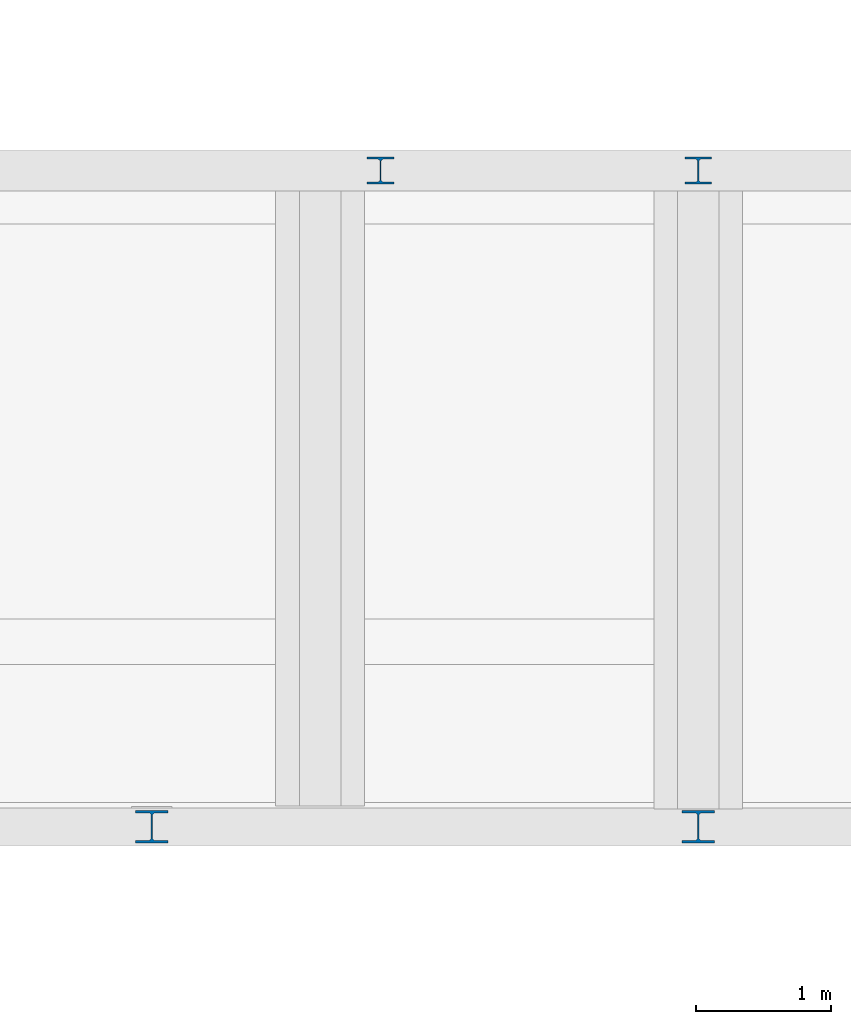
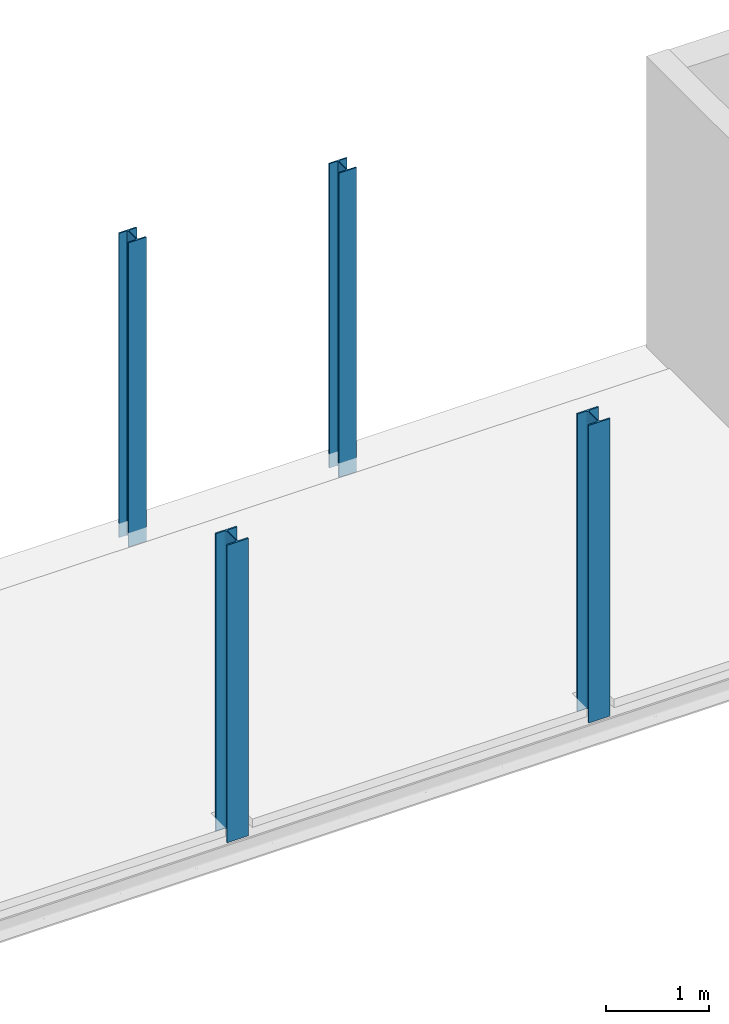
# One storey, part 7 of 38: 4 columns.
"""IFC2X3 building model written with IfcOpenShell, lengths in millimetres."""

from ifc_helpers import new_model, entity, si_unit, converted_unit, derived_unit, direction, frame, frame_2d, origin, place, context, subcontext, project, spatial, polyline, circle_curve, parameter, trimmed, segment, composite_curve, outline, extrude, source, transform, mapped, material, type_object, type_shapes, element, save


model = new_model("IFC2X3")

# Units and contexts
model_context = context("Model", 3, precision=0.01, world=origin(), true_north=direction((6.12303176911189e-17, 1.0)))
body_context = subcontext(model_context, "Body", "Model", "MODEL_VIEW")
ifc_project = project(units=[si_unit("LENGTHUNIT", "METRE", prefix="MILLI"), si_unit("AREAUNIT", "SQUARE_METRE", prefix="MILLI"), si_unit("VOLUMEUNIT", "CUBIC_METRE"), converted_unit("PLANEANGLEUNIT", "DEGREE", entity("IfcRatioMeasure", 0.0174532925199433), si_unit("PLANEANGLEUNIT", "RADIAN"), dimensions=[0, 0, 0, 0, 0, 0, 0]), si_unit("MASSUNIT", "GRAM", prefix="KILO"), derived_unit("MASSDENSITYUNIT", [(si_unit("MASSUNIT", "GRAM", prefix="KILO"), 1), (si_unit("LENGTHUNIT", "METRE"), -3)]), derived_unit("MOMENTOFINERTIAUNIT", [(si_unit("LENGTHUNIT", "METRE"), 4)]), si_unit("TIMEUNIT", "SECOND"), si_unit("FREQUENCYUNIT", "HERTZ"), si_unit("THERMODYNAMICTEMPERATUREUNIT", "DEGREE_CELSIUS"), derived_unit("THERMALTRANSMITTANCEUNIT", [(si_unit("MASSUNIT", "GRAM", prefix="KILO"), 1), (si_unit("THERMODYNAMICTEMPERATUREUNIT", "KELVIN"), -1), (si_unit("TIMEUNIT", "SECOND"), -3)]), derived_unit("VOLUMETRICFLOWRATEUNIT", [(si_unit("LENGTHUNIT", "METRE"), 3), (si_unit("TIMEUNIT", "SECOND"), -1)]), si_unit("ELECTRICCURRENTUNIT", "AMPERE"), si_unit("ELECTRICVOLTAGEUNIT", "VOLT"), si_unit("POWERUNIT", "WATT"), si_unit("FORCEUNIT", "NEWTON", prefix="KILO"), si_unit("ILLUMINANCEUNIT", "LUX"), si_unit("LUMINOUSFLUXUNIT", "LUMEN"), si_unit("LUMINOUSINTENSITYUNIT", "CANDELA"), derived_unit("USERDEFINED", [(si_unit("MASSUNIT", "GRAM", prefix="KILO"), -1), (si_unit("LENGTHUNIT", "METRE"), -2), (si_unit("TIMEUNIT", "SECOND"), 3), (si_unit("LUMINOUSFLUXUNIT", "LUMEN"), 1)]), derived_unit("LINEARVELOCITYUNIT", [(si_unit("LENGTHUNIT", "METRE"), 1), (si_unit("TIMEUNIT", "SECOND"), -1)]), si_unit("PRESSUREUNIT", "PASCAL"), derived_unit("USERDEFINED", [(si_unit("LENGTHUNIT", "METRE"), -2), (si_unit("MASSUNIT", "GRAM", prefix="KILO"), 1), (si_unit("TIMEUNIT", "SECOND"), -2)]), derived_unit("LINEARFORCEUNIT", [(si_unit("MASSUNIT", "GRAM", prefix="KILO"), 1), (si_unit("LENGTHUNIT", "METRE"), 1), (si_unit("TIMEUNIT", "SECOND"), -2), (si_unit("LENGTHUNIT", "METRE"), -1)]), derived_unit("PLANARFORCEUNIT", [(si_unit("MASSUNIT", "GRAM", prefix="KILO"), 1), (si_unit("LENGTHUNIT", "METRE"), 1), (si_unit("TIMEUNIT", "SECOND"), -2), (si_unit("LENGTHUNIT", "METRE"), -2)])], contexts=[model_context])

# Site, building, storey
site_placement = place(None, origin())
site = spatial("IfcSite", under=ifc_project, at=site_placement, Name="Theater aan de Parade", CompositionType="ELEMENT")
building_placement = place(site_placement, origin())
building = spatial("IfcBuilding", under=site, at=building_placement, Name="Theater aan de Parade", CompositionType="ELEMENT")
storey_placement = place(building_placement, frame((0.0, 0.0, 12480.0)))
storey = spatial("IfcBuildingStorey", under=building, at=storey_placement, Name="03 derde verdieping", CompositionType="ELEMENT", Elevation=12480.0)

# Columns
ifc_material = material(Name="00_PBT_MAT_staal_S355")
column_type_1 = type_object("IfcColumnType", Name="28_PBT_SC_staal_H-profiel:S355_HE200B", PredefinedType="COLUMN", material=ifc_material)
shared_shape_1 = source(origin(), body_context, "Body", "SweptSolid", [
    extrude(outline(composite_curve([segment(polyline([(85.0, -100.0), (100.0, -100.0)]), True, "CONTINUOUS"), segment(polyline([(100.0, -100.0), (100.0, 100.0)]), True, "CONTINUOUS"), segment(polyline([(100.0, 100.0), (85.0, 100.0)]), True, "CONTINUOUS"), segment(polyline([(85.0, 100.0), (85.0, 22.5)]), True, "CONTINUOUS"), segment(trimmed(circle_curve(frame_2d((67.0, 22.5), x_axis=(1.0, 0.0)), 18.0), [parameter(270.0)], [parameter(0.0)], True, "PARAMETER"), False, "CONTINUOUS"), segment(polyline([(67.0, 4.50000000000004), (-67.0, 4.5)]), True, "CONTINUOUS"), segment(trimmed(circle_curve(frame_2d((-67.0, 22.5), x_axis=(0.0, -1.0)), 18.0), [parameter(270.0)], [parameter(0.0)], True, "PARAMETER"), False, "CONTINUOUS"), segment(polyline([(-85.0, 22.5), (-85.0, 100.0)]), True, "CONTINUOUS"), segment(polyline([(-85.0, 100.0), (-100.0, 100.0)]), True, "CONTINUOUS"), segment(polyline([(-100.0, 100.0), (-100.0, -100.0)]), True, "CONTINUOUS"), segment(polyline([(-100.0, -100.0), (-85.0, -100.0)]), True, "CONTINUOUS"), segment(polyline([(-85.0, -100.0), (-85.0, -22.5)]), True, "CONTINUOUS"), segment(trimmed(circle_curve(frame_2d((-67.0, -22.5), x_axis=(-1.0, 0.0)), 18.0), [parameter(270.0)], [parameter(0.0)], True, "PARAMETER"), False, "CONTINUOUS"), segment(polyline([(-67.0, -4.5), (67.0, -4.49999999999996)]), True, "CONTINUOUS"), segment(trimmed(circle_curve(frame_2d((67.0, -22.5), x_axis=(0.0, 1.0)), 18.0), [parameter(270.0)], [parameter(0.0)], True, "PARAMETER"), False, "CONTINUOUS"), segment(polyline([(85.0, -22.5), (85.0, -100.0)]), True, "CONTINUOUS")], self_intersect=False)), frame((0.0, 0.0, 12420.0), z_axis=(0.0, 0.0, 1.0), x_axis=(0.0, -1.0, 0.0)), (0.0, 0.0, 1.0), 3615.0),
])
type_shapes(column_type_1, [shared_shape_1])
for number, where, z_axis, x_axis in (
    (1, (76411.8589693, 19700.0, -12480.0), (0.0, 0.0, 1.0), (-1.0, 0.0, 0.0)),
    (2, (78773.8589693, 19700.0, -12480.0), (0.0, 0.0, 1.0), (-1.0, 0.0, 0.0)),
):
    element("IfcColumn", number, at=place(storey_placement, frame(where, z_axis=z_axis, x_axis=x_axis)), inside=storey, type_object=column_type_1, material=ifc_material, Name="28_PBT_SC_staal_H-profiel:S355_HE200B", ObjectType="28_PBT_SC_staal_H-profiel:S355_HE200B", context=body_context, shape_type="MappedRepresentation", body=[
        mapped(shared_shape_1, transform((0.0, 0.0, 0.0), scale=1.0)),
    ])
column_type_2 = type_object("IfcColumnType", Name="28_PBT_SC_staal_H-profiel:S355_HE240B", PredefinedType="COLUMN", material=ifc_material)
shared_shape_2 = source(origin(), body_context, "Body", "SweptSolid", [
    extrude(outline(composite_curve([segment(polyline([(103.0, -120.0), (120.0, -120.0)]), True, "CONTINUOUS"), segment(polyline([(120.0, -120.0), (120.0, 120.0)]), True, "CONTINUOUS"), segment(polyline([(120.0, 120.0), (103.0, 120.0)]), True, "CONTINUOUS"), segment(polyline([(103.0, 120.0), (103.0, 26.0)]), True, "CONTINUOUS"), segment(trimmed(circle_curve(frame_2d((82.0, 26.0), x_axis=(1.0, 0.0)), 21.0), [parameter(269.999999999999)], [parameter(0.0)], True, "PARAMETER"), False, "CONTINUOUS"), segment(polyline([(82.0, 5.0), (-82.0, 5.0)]), True, "CONTINUOUS"), segment(trimmed(circle_curve(frame_2d((-82.0, 26.0), x_axis=(0.0, -1.0)), 21.0), [parameter(270.0)], [parameter(0.0)], True, "PARAMETER"), False, "CONTINUOUS"), segment(polyline([(-103.0, 26.0), (-103.0, 120.0)]), True, "CONTINUOUS"), segment(polyline([(-103.0, 120.0), (-120.0, 120.0)]), True, "CONTINUOUS"), segment(polyline([(-120.0, 120.0), (-120.0, -120.0)]), True, "CONTINUOUS"), segment(polyline([(-120.0, -120.0), (-103.0, -120.0)]), True, "CONTINUOUS"), segment(polyline([(-103.0, -120.0), (-103.0, -26.0)]), True, "CONTINUOUS"), segment(trimmed(circle_curve(frame_2d((-82.0, -26.0), x_axis=(-1.0, 0.0)), 21.0), [parameter(270.0)], [parameter(0.0)], True, "PARAMETER"), False, "CONTINUOUS"), segment(polyline([(-82.0, -5.0), (82.0, -5.0)]), True, "CONTINUOUS"), segment(trimmed(circle_curve(frame_2d((82.0, -26.0), x_axis=(0.0, 1.0)), 21.0), [parameter(270.0)], [parameter(0.0)], True, "PARAMETER"), False, "CONTINUOUS"), segment(polyline([(103.0, -26.0), (103.0, -120.0)]), True, "CONTINUOUS")], self_intersect=False)), frame((0.0, 0.0, 12480.0), z_axis=(0.0, 0.0, 1.0), x_axis=(0.0, -1.0, 0.0)), (0.0, 0.0, 1.0), 3535.0),
])
type_shapes(column_type_2, [shared_shape_2])
for number, where, z_axis, x_axis in (
    (3, (74711.8589693, 14822.0, -12480.0), (0.0, 0.0, 1.0), (-1.0, 0.0, 0.0)),
    (4, (78773.8589693, 14822.0, -12480.0), (0.0, 0.0, 1.0), (-1.0, 0.0, 0.0)),
):
    element("IfcColumn", number, at=place(storey_placement, frame(where, z_axis=z_axis, x_axis=x_axis)), inside=storey, type_object=column_type_2, material=ifc_material, Name="28_PBT_SC_staal_H-profiel:S355_HE240B", ObjectType="28_PBT_SC_staal_H-profiel:S355_HE240B", context=body_context, shape_type="MappedRepresentation", body=[
        mapped(shared_shape_2, transform((0.0, 0.0, 0.0), scale=1.0)),
    ])

save(model, "model.ifc")
